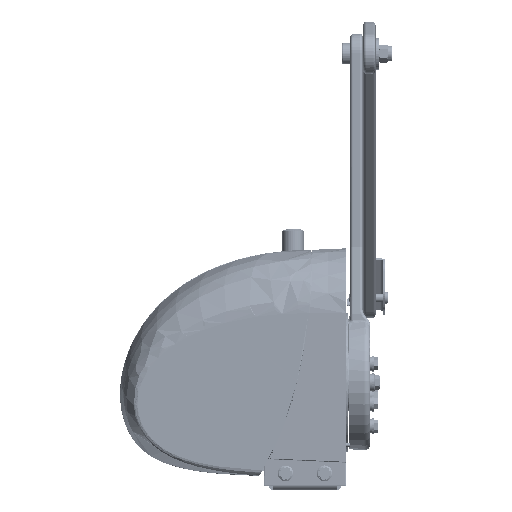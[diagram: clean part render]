
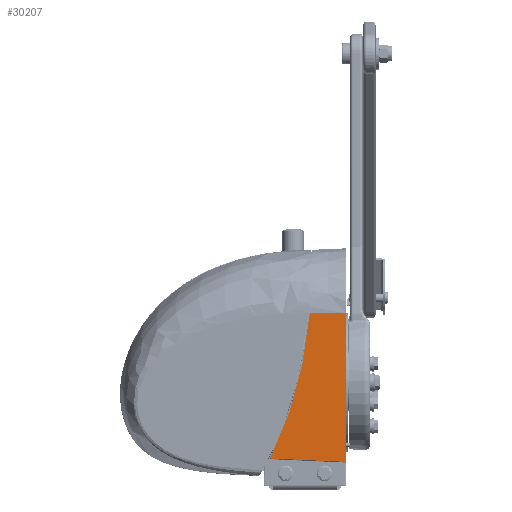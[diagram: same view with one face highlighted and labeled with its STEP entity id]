
A CAD part, left-side view. The second image highlights one B-rep face of the part: STEP entity #30207.
In plain terms, the highlighted planar face has unit normal (-0.999, 0.044, 0).
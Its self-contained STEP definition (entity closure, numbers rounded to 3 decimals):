
#3317 = EDGE_CURVE ( 'NONE', #69459, #322885, #427885, .T. ) ;
#7208 = CARTESIAN_POINT ( 'NONE',  ( -109.486, 69.034, 75.711 ) ) ;
#30207 = ADVANCED_FACE ( 'NONE', ( #627575 ), #517287, .T. ) ;
#55482 = EDGE_CURVE ( 'NONE', #69459, #285930, #314800, .T. ) ;
#66379 = CARTESIAN_POINT ( 'NONE',  ( -109.645, 65.402, 86.05 ) ) ;
#69459 = VERTEX_POINT ( 'NONE', #431501 ) ;
#103453 = AXIS2_PLACEMENT_3D ( 'NONE', #458225, #283771, #694346 ) ;
#120395 = CARTESIAN_POINT ( 'NONE',  ( -108.951, 81.293, 45.251 ) ) ;
#120424 = ORIENTED_EDGE ( 'NONE', *, *, #55482, .T. ) ;
#125432 = CARTESIAN_POINT ( 'NONE',  ( -109.84, 60.919, 99.979 ) ) ;
#150742 = CARTESIAN_POINT ( 'NONE',  ( -112.5, 0., 28.352 ) ) ;
#171621 = EDGE_CURVE ( 'NONE', #673023, #322885, #197517, .T. ) ;
#174692 = CARTESIAN_POINT ( 'NONE',  ( -112.5, 0., 200. ) ) ;
#184500 = CARTESIAN_POINT ( 'NONE',  ( -110.174, 53.268, 128.108 ) ) ;
#197517 = LINE ( 'NONE', #275845, #665781 ) ;
#239570 = CARTESIAN_POINT ( 'NONE',  ( -110.665, 42.025, 200. ) ) ;
#243365 = CARTESIAN_POINT ( 'NONE',  ( -110.524, 45.252, 170.99 ) ) ;
#260763 = VECTOR ( 'NONE', #557687, 1000. ) ;
#275845 = CARTESIAN_POINT ( 'NONE',  ( -112.5, 0., 200. ) ) ;
#283771 = DIRECTION ( 'NONE',  ( -0.999, 0.044, 0. ) ) ;
#285930 = VERTEX_POINT ( 'NONE', #150742 ) ;
#302461 = CARTESIAN_POINT ( 'NONE',  ( -110.665, 42.025, 200. ) ) ;
#314800 = LINE ( 'NONE', #759681, #470705 ) ;
#322885 = VERTEX_POINT ( 'NONE', #239570 ) ;
#359168 = CARTESIAN_POINT ( 'NONE',  ( -109.206, 75.452, 58.627 ) ) ;
#384239 = ORIENTED_EDGE ( 'NONE', *, *, #3317, .F. ) ;
#417939 = CARTESIAN_POINT ( 'NONE',  ( -109.54, 67.794, 79.145 ) ) ;
#427885 = B_SPLINE_CURVE_WITH_KNOTS ( 'NONE', 3,
 ( #710533, #120395, #359168, #7208, #417939, #66379, #476945, #125432, #535957, #184500, #594974, #243365, #654083, #302461 ),
 .UNSPECIFIED., .F., .F.,
 ( 4, 2, 2, 2, 2, 2, 4 ),
 ( 0., 0.044, 0.055, 0.066, 0.088, 0.132, 0.175 ),
 .UNSPECIFIED. ) ;
#431501 = CARTESIAN_POINT ( 'NONE',  ( -108.662, 87.904, 32.19 ) ) ;
#440282 = ORIENTED_EDGE ( 'NONE', *, *, #569257, .F. ) ;
#457941 = EDGE_LOOP ( 'NONE', ( #384239, #120424, #440282, #718718 ) ) ;
#458225 = CARTESIAN_POINT ( 'NONE',  ( -112.5, 0., 0. ) ) ;
#470705 = VECTOR ( 'NONE', #703122, 1000. ) ;
#476945 = CARTESIAN_POINT ( 'NONE',  ( -109.695, 64.248, 89.523 ) ) ;
#508850 = CARTESIAN_POINT ( 'NONE',  ( -112.5, 0., 29. ) ) ;
#517287 = PLANE ( 'NONE',  #103453 ) ;
#535957 = CARTESIAN_POINT ( 'NONE',  ( -109.929, 58.88, 106.986 ) ) ;
#554573 = LINE ( 'NONE', #508850, #260763 ) ;
#557687 = DIRECTION ( 'NONE',  ( 0., 0., -1. ) ) ;
#569257 = EDGE_CURVE ( 'NONE', #673023, #285930, #554573, .T. ) ;
#594974 = CARTESIAN_POINT ( 'NONE',  ( -110.308, 50.2, 142.323 ) ) ;
#627575 = FACE_OUTER_BOUND ( 'NONE', #457941, .T. ) ;
#654083 = CARTESIAN_POINT ( 'NONE',  ( -110.606, 43.373, 185.442 ) ) ;
#665781 = VECTOR ( 'NONE', #745447, 1000. ) ;
#673023 = VERTEX_POINT ( 'NONE', #174692 ) ;
#694346 = DIRECTION ( 'NONE',  ( -0.044, -0.999, 0. ) ) ;
#703122 = DIRECTION ( 'NONE',  ( -0.044, -0.998, -0.044 ) ) ;
#710533 = CARTESIAN_POINT ( 'NONE',  ( -108.662, 87.904, 32.19 ) ) ;
#718718 = ORIENTED_EDGE ( 'NONE', *, *, #171621, .T. ) ;
#745447 = DIRECTION ( 'NONE',  ( 0.044, 0.999, 0. ) ) ;
#759681 = CARTESIAN_POINT ( 'NONE',  ( -112.554, -1.233, 28.298 ) ) ;
